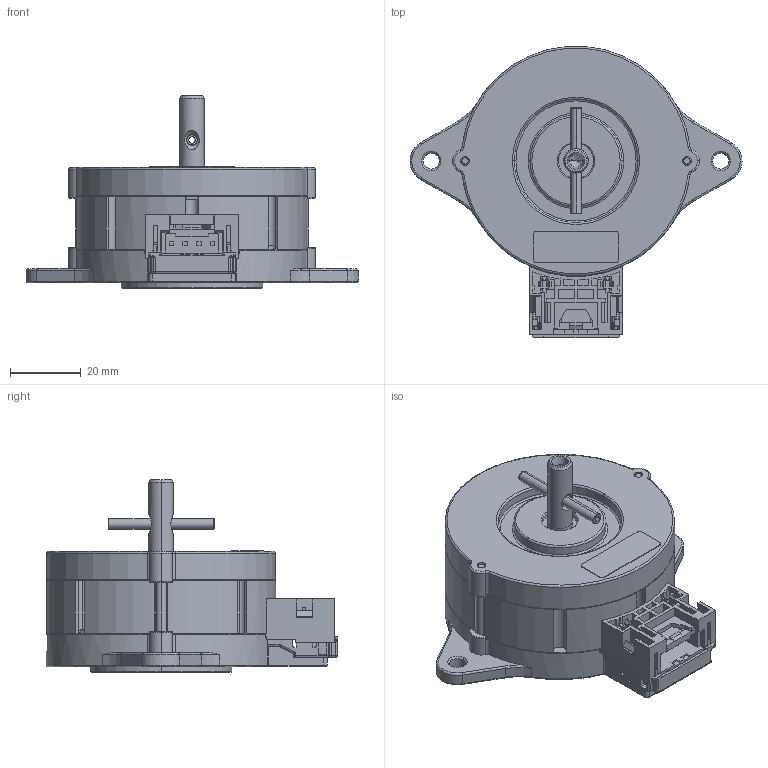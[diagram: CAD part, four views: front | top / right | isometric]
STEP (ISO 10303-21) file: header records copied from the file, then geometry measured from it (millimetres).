
FILE_DESCRIPTION (( 'STEP AP203' ), '1' );
FILE_NAME ('KAP65M_3D.STEP', '2026-09-10T08:05:09', ( '' ), ( '' ), 'SwSTEP 2.0', 'SolidWorks 2026', '' );
FILE_SCHEMA (( 'CONFIG_CONTROL_DESIGN' ));
Length unit declared in the file: millimetre
Products named in the file (1): KAP65M_3D
Bounding box: 94 x 82.5 x 54.5 mm (x, y, z)
Volume: 110928.8 mm3; surface area: 25449.3 mm2
Topology: 2 solids, 3 shells, 1309 faces, 3589 edges, 2274 vertices
Faces by surface type: plane 775, cylinder 350, torus 85, cone 81, bspline 10, sphere 8
Entity records: 41936 total; most frequent: CARTESIAN_POINT 8405, ORIENTED_EDGE 7150, DIRECTION 6913, EDGE_CURVE 3575, VECTOR 2429, LINE 2429, VERTEX_POINT 2274, AXIS2_PLACEMENT_3D 2242
